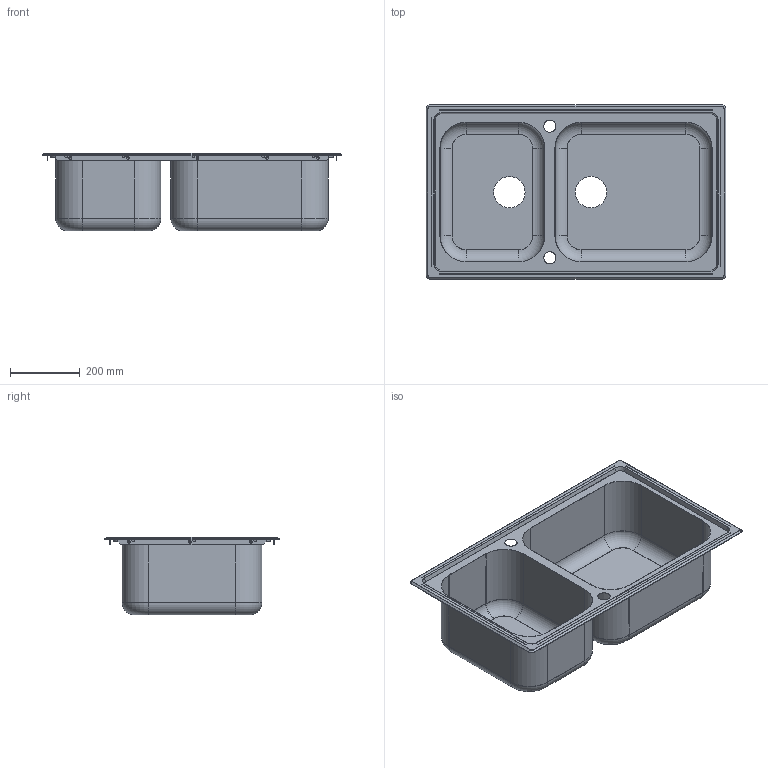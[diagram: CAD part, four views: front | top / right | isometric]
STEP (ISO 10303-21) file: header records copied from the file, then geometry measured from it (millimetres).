
FILE_DESCRIPTION(('CATIA V5 STEP Exchange'),'2;1');
FILE_NAME('C:\Users\linop\Desktop\LGR862-2.stp','2020-11-09T10:44:22+00:00',('none'),('none'),'CATIA Version 5-6 Release 2014','CATIA V5 STEP AP203','none');
FILE_SCHEMA(('CONFIG_CONTROL_DESIGN'));
Length unit declared in the file: millimetre
Products named in the file (1): LG862-2
Bounding box: 860 x 500 x 223 mm (x, y, z)
Volume: 712266.7 mm3; surface area: 2107201.7 mm2
Topology: 7 solids, 7 shells, 268 faces, 702 edges, 452 vertices
Faces by surface type: cylinder 134, plane 102, cone 16, torus 16
Entity records: 7948 total; most frequent: CARTESIAN_POINT 1508, ORIENTED_EDGE 1404, DIRECTION 1068, EDGE_CURVE 702, AXIS2_PLACEMENT_3D 482, VERTEX_POINT 452, VECTOR 394, LINE 394
